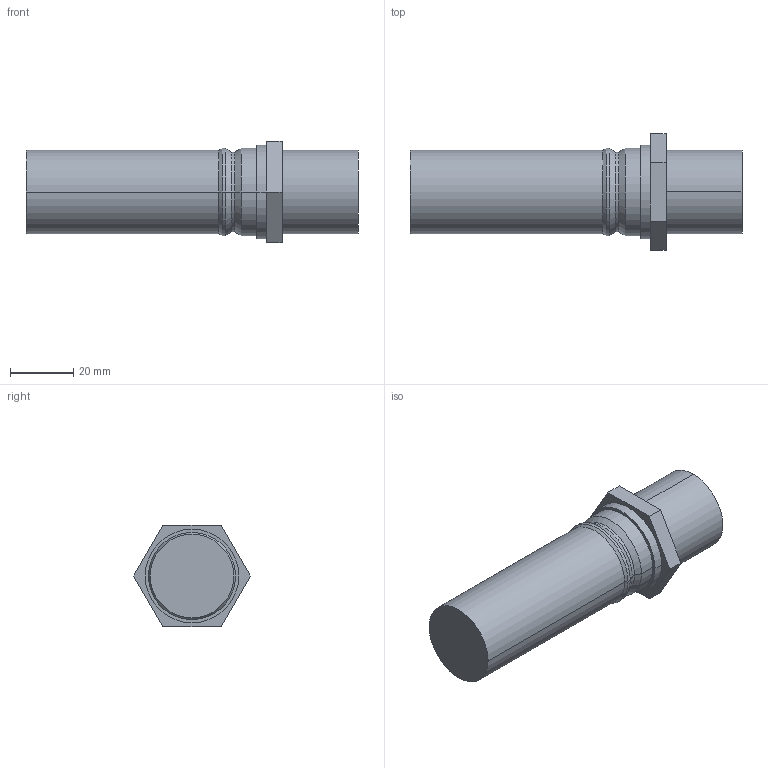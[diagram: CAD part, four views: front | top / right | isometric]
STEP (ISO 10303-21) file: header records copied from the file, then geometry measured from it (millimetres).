
FILE_DESCRIPTION (( 'STEP AP214' ), '1' );
FILE_NAME ('BR601.06 DRB 26.STEP', '2020-12-02T13:29:33', ( '' ), ( '' ), 'SwSTEP 2.0', 'SolidWorks 2018', '' );
FILE_SCHEMA (( 'AUTOMOTIVE_DESIGN' ));
Length unit declared in the file: millimetre
Products named in the file (1): BR601.06 DRB 26
Bounding box: 105 x 36.95 x 32 mm (x, y, z)
Volume: 59861.5 mm3; surface area: 10686.9 mm2
Topology: 1 solids, 1 shells, 29 faces, 60 edges, 36 vertices
Faces by surface type: cylinder 12, plane 11, cone 6
Entity records: 796 total; most frequent: DIRECTION 144, CARTESIAN_POINT 126, ORIENTED_EDGE 120, EDGE_CURVE 60, AXIS2_PLACEMENT_3D 54, VECTOR 36, LINE 36, VERTEX_POINT 36
